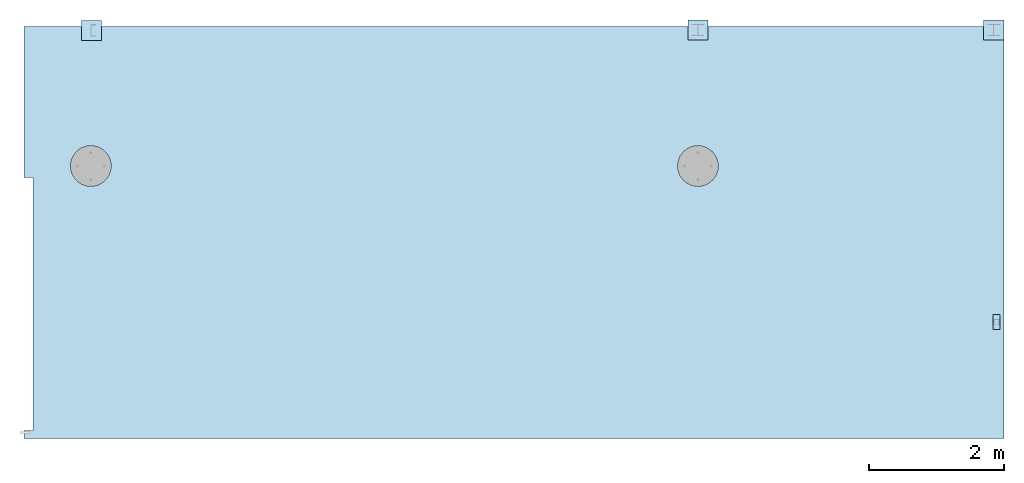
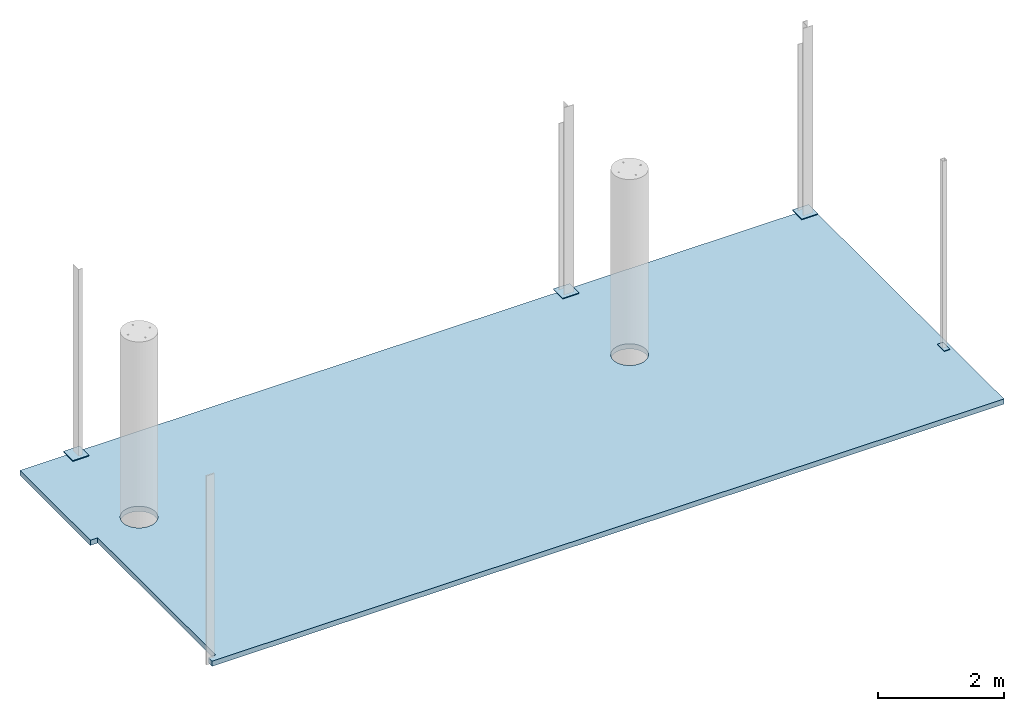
# One storey, part 5 of 6: 4 plates, 1 slab.
"""IFC2X3 building model written with IfcOpenShell, lengths in millimetres."""

from ifc_helpers import new_model, entity, si_unit, converted_unit, derived_unit, direction, frame, origin_with_axes, place, context, subcontext, project, spatial, faceted_brep, material, type_object, element, save


model = new_model("IFC2X3")

# Units and contexts
model_context = context("Model", 3, precision=0.01, world=frame((0.0, 4.29681676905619e-09, 0.0)), true_north=direction((6.12323399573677e-17, 1.0)))
plan_context = context("Plan", 3, precision=0.01, world=frame((0.0, 4.29681676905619e-09, 0.0)), true_north=direction((6.12323399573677e-17, 1.0)))
body_context = subcontext(model_context, "Body", "Model", "MODEL_VIEW")
ifc_project = project(units=[converted_unit("PLANEANGLEUNIT", "DEGREE", entity("IfcPositiveLengthMeasure", 0.0174532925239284), si_unit("PLANEANGLEUNIT", "RADIAN"), dimensions=[0, 0, 0, 0, 0, 0, 0]), si_unit("AREAUNIT", "SQUARE_METRE"), si_unit("LENGTHUNIT", "METRE", prefix="MILLI"), si_unit("MASSUNIT", "GRAM", prefix="KILO"), si_unit("POWERUNIT", "WATT"), si_unit("PRESSUREUNIT", "PASCAL", prefix="KILO"), si_unit("FORCEUNIT", "NEWTON", prefix="KILO"), si_unit("ELECTRICVOLTAGEUNIT", "VOLT"), si_unit("ELECTRICCURRENTUNIT", "AMPERE"), si_unit("THERMODYNAMICTEMPERATUREUNIT", "DEGREE_CELSIUS"), si_unit("TIMEUNIT", "SECOND"), si_unit("VOLUMEUNIT", "CUBIC_METRE"), derived_unit("LINEARVELOCITYUNIT", [(si_unit("LENGTHUNIT", "METRE"), 1), (si_unit("TIMEUNIT", "SECOND"), -1)]), derived_unit("VOLUMETRICFLOWRATEUNIT", [(si_unit("VOLUMEUNIT", "CUBIC_METRE"), 1), (si_unit("TIMEUNIT", "SECOND"), -1)]), derived_unit("THERMALTRANSMITTANCEUNIT", [(si_unit("POWERUNIT", "WATT"), 1), (si_unit("THERMODYNAMICTEMPERATUREUNIT", "KELVIN"), -1), (si_unit("AREAUNIT", "SQUARE_METRE"), -1)]), derived_unit("SOUNDPRESSUREUNIT", [(si_unit("PRESSUREUNIT", "PASCAL"), 1)])], contexts=[model_context, plan_context])

# Site, building, storey
site_placement = place(None, frame((0.0, -4.29681676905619e-09, 0.0), z_axis=(0.0, 0.0, 1.0), x_axis=(1.0, 0.0, 0.0)))
site = spatial("IfcSite", under=ifc_project, at=site_placement, Name="Gardermoen", CompositionType="ELEMENT")
building_placement = place(site_placement, frame((0.0, 4.29681676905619e-09, 0.0), z_axis=(0.0, 0.0, 1.0), x_axis=(1.0, 0.0, 0.0)))
building = spatial("IfcBuilding", under=site, at=building_placement, Name="THO", CompositionType="ELEMENT")
storey_placement = place(building_placement, origin_with_axes())
storey = spatial("IfcBuildingStorey", under=building, at=storey_placement, Name="Nivå F", CompositionType="ELEMENT", Elevation=0.0)

# Plates
ifc_material = material(Name="STEEL/S355")
plate_type_1 = type_object("IfcPlateType", Name="PL10*100", PredefinedType="NOTDEFINED")
plate_placement = place(storey_placement, frame((1130374.79907006, 464194.991475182, 210135.000109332), z_axis=(1.0, 0.0, 0.0), x_axis=(0.0, -1.0, 0.0)))
element("IfcPlate", 1, at=plate_placement, inside=storey, type_object=plate_type_1, material=ifc_material, Name="STÅLSØYLE", ObjectType="PL10*100", context=body_context, shape_type="Brep", body=[
    faceted_brep([(0.0, -4.9999999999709, 0.0), (-1.16415321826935e-10, -5.0, 99.9992370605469), (-1.16415321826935e-10, 5.0, 99.9992370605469), (0.0, 5.0000000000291, -5.82076609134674e-11), (219.995422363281, -5.0, 99.9992370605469), (219.995422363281, 5.0, 99.9992370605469), (219.995422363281, -5.0, 0.0), (219.995422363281, 5.0, 0.0)], [[[0, 1, 2, 3]], [[1, 4, 5, 2]], [[4, 6, 7, 5]], [[6, 0, 3, 7]], [[5, 7, 3, 2]], [[6, 4, 1, 0]]]),
])
plate_type_2 = type_object("IfcPlateType", Name="PL15*300", PredefinedType="NOTDEFINED")
for number, where, z_axis, x_axis in (
    (2, (1116859.00205244, 468560.000026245, 210137.500109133), (0.0, -1.0, 0.0), (1.0, 0.0, 0.0)),
    (3, (1130234.75623213, 468264.500179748, 210137.500109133), (0.0, 1.0, 0.0), (1.0, 0.0, 0.0)),
    (4, (1125850.00586592, 468264.500179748, 210137.500109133), (0.0, 1.0, 0.0), (1.0, 0.0, 0.0)),
):
    element("IfcPlate", number, at=place(storey_placement, frame(where, z_axis=z_axis, x_axis=x_axis)), inside=storey, type_object=plate_type_2, material=ifc_material, Name="STÅLSØYLE", ObjectType="PL15*300", context=body_context, shape_type="Brep", body=[
        faceted_brep([(5.82076609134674e-11, -7.49999999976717, 2.91038304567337e-11), (-1.16415321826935e-10, -7.5, 299.999237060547), (-1.16415321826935e-10, 7.5, 299.999237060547), (5.82076609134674e-11, 7.50000000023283, 0.0), (299.995422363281, -7.5, 299.999237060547), (299.995422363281, 7.5, 299.999237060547), (299.995422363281, -7.5, 5.82076609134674e-11), (299.995422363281, 7.5, 5.82076609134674e-11)], [[[0, 1, 2, 3]], [[1, 4, 5, 2]], [[4, 6, 7, 5]], [[6, 0, 3, 7]], [[5, 7, 3, 2]], [[6, 4, 1, 0]]]),
    ])

# Slab
slab_type = type_object("IfcSlabType", Name="100*27000", PredefinedType="NOTDEFINED")
slab_placement = place(storey_placement, frame((1135000.0, 488163.999511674, 210080.0), z_axis=(0.0, -1.0, 0.0), x_axis=(-1.0, 0.0, 0.0)))
element("IfcSlab", 5, at=slab_placement, inside=storey, type_object=slab_type, Name="PÅSTØP", ObjectType="100*27000", PredefinedType="FLOOR", context=body_context, shape_type="Brep", body=[
    faceted_brep([(18989.9999999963, 50.0000000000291, 21933.9990225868), (18989.9999999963, -50.0, 21933.9990225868), (18855.000164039, -50.0, 21933.9990315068), (18855.000164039, 50.0000000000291, 21933.9990315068), (18989.9999999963, -50.0, 25683.4990635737), (18989.9999999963, 50.0000000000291, 25683.4990635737), (18855.0007235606, 50.0000000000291, 25683.4990670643), (18855.0007235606, -50.0, 25683.4990670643), (8700.00043527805, -50.0, 21763.9993376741), (8700.00043527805, 50.0000000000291, 21763.9993376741), (8703.69393216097, 50.0000000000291, 21717.0689980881), (8703.69393216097, -50.0, 21717.0689980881), (8703.69393403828, -50.0, 21810.9296771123), (8703.69393403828, 50.0000000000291, 21810.9296771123), (8714.68348224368, -50.0, 21856.7044356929), (8714.68348224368, 50.0000000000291, 21856.7044356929), (8732.69848074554, -50.0, 21900.1964869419), (8732.69848074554, 50.0000000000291, 21900.1964869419), (8757.29534049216, -50.0, 21940.3349122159), (8757.29534049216, 50.0000000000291, 21940.3349122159), (8787.86840516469, -50.0, 21976.1313702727), (8787.86840516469, 50.0000000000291, 21976.1313702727), (8823.66486444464, -50.0, 22006.7044335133), (8823.66486444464, 50.0000000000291, 22006.7044335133), (8863.80329070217, -50.0, 22031.3012916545), (8863.80329070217, 50.0000000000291, 22031.3012916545), (8907.29534267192, -50.0, 22049.3162884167), (8907.29534267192, 50.0000000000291, 22049.3162884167), (8953.07010169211, -50.0, 22060.3058347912), (8953.07010169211, 50.0000000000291, 22060.3058347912), (9000.0004412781, -50.0, 22063.9993316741), (9000.0004412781, 50.0000000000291, 22063.9993316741), (9046.93078071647, -50.0, 22060.305832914), (9046.93078071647, 50.0000000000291, 22060.305832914), (9092.70553929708, -50.0, 22049.3162847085), (9092.70553929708, 50.0000000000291, 22049.3162847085), (9136.19759054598, -50.0, 22031.3012862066), (9136.19759054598, 50.0000000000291, 22031.3012862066), (9176.33601582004, -50.0, 22006.7044264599), (9176.33601582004, 50.0000000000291, 22006.7044264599), (9212.1324738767, -50.0, 21976.1313617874), (9212.1324738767, 50.0000000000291, 21976.1313617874), (9242.70553711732, -50.0, 21940.3349025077), (9242.70553711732, 50.0000000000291, 21940.3349025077), (9267.3023952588, -50.0, 21900.1964762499), (9267.3023952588, 50.0000000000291, 21900.1964762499), (9285.31739202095, -50.0, 21856.7044242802), (9285.31739202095, 50.0000000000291, 21856.7044242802), (9296.30693839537, -50.0, 21810.92966526), (9296.30693839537, 50.0000000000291, 21810.92966526), (9300.00043527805, -50.0, 21763.9993256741), (9300.00043527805, 50.0000000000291, 21763.9993256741), (9296.30693651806, -50.0, 21717.0689862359), (9296.30693651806, 50.0000000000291, 21717.0689862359), (9285.31738831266, -50.0, 21671.2942276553), (9285.31738831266, 50.0000000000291, 21671.2942276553), (9267.30238981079, -50.0, 21627.8021764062), (9267.30238981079, 50.0000000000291, 21627.8021764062), (9242.70553006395, -50.0, 21587.6637511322), (9242.70553006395, 50.0000000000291, 21587.6637511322), (9212.13246539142, -50.0, 21551.8672930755), (9212.13246539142, 50.0000000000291, 21551.8672930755), (9176.3360061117, -50.0, 21521.2942298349), (9176.3360061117, 50.0000000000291, 21521.2942298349), (9136.19757985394, -50.0, 21496.6973716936), (9136.19757985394, 50.0000000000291, 21496.6973716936), (9092.70552788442, -50.0, 21478.6823749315), (9092.70552788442, 50.0000000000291, 21478.6823749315), (9046.93076886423, -50.0, 21467.6928285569), (9046.93076886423, 50.0000000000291, 21467.6928285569), (9000.00042927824, -50.0, 21463.9993316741), (9000.00042927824, 50.0000000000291, 21463.9993316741), (8953.07008983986, -50.0, 21467.6928304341), (8953.07008983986, 50.0000000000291, 21467.6928304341), (8907.29533125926, -50.0, 21478.6823786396), (8907.29533125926, 50.0000000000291, 21478.6823786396), (8863.80328001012, -50.0, 21496.6973771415), (8863.80328001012, 50.0000000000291, 21496.6973771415), (8823.6648547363, -50.0, 21521.2942368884), (8823.6648547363, 50.0000000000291, 21521.2942368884), (8787.86839667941, -50.0, 21551.8673015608), (8787.86839667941, 50.0000000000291, 21551.8673015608), (8757.29533343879, -50.0, 21587.6637608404), (8757.29533343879, 50.0000000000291, 21587.6637608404), (8732.69847529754, -50.0, 21627.8021870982), (8732.69847529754, 50.0000000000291, 21627.8021870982), (8714.68347853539, -50.0, 21671.2942390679), (8714.68347853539, 50.0000000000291, 21671.2942390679), (17700.0004352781, -49.9999999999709, 21763.9991576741), (17700.0004352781, 50.0000000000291, 21763.9991576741), (17703.693932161, 50.0000000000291, 21717.0688180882), (17703.693932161, -49.9999999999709, 21717.0688180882), (17703.6939340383, -49.9999999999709, 21810.9294971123), (17703.6939340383, 50.0000000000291, 21810.9294971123), (17714.6834822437, -49.9999999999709, 21856.7042556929), (17714.6834822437, 50.0000000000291, 21856.7042556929), (17732.6984807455, -49.9999999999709, 21900.196306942), (17732.6984807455, 50.0000000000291, 21900.196306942), (17757.2953404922, -49.9999999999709, 21940.334732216), (17757.2953404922, 50.0000000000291, 21940.334732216), (17787.8684051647, -49.9999999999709, 21976.1311902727), (17787.8684051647, 50.0000000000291, 21976.1311902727), (17823.6648644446, -49.9999999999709, 22006.7042535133), (17823.6648644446, 50.0000000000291, 22006.7042535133), (17863.8032907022, -49.9999999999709, 22031.3011116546), (17863.8032907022, 50.0000000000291, 22031.3011116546), (17907.2953426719, -49.9999999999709, 22049.3161084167), (17907.2953426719, 50.0000000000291, 22049.3161084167), (17953.0701016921, -49.9999999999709, 22060.3056547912), (17953.0701016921, 50.0000000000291, 22060.3056547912), (18000.0004412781, -49.9999999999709, 22063.9991516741), (18000.0004412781, 50.0000000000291, 22063.9991516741), (18046.9307807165, -49.9999999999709, 22060.305652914), (18046.9307807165, 50.0000000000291, 22060.305652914), (18092.7055392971, -49.9999999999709, 22049.3161047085), (18092.7055392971, 50.0000000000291, 22049.3161047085), (18136.197590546, -49.9999999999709, 22031.3011062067), (18136.197590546, 50.0000000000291, 22031.3011062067), (18176.33601582, -49.9999999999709, 22006.7042464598), (18176.33601582, 50.0000000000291, 22006.7042464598), (18212.1324738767, -49.9999999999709, 21976.1311817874), (18212.1324738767, 50.0000000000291, 21976.1311817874), (18242.7055371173, -49.9999999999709, 21940.3347225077), (18242.7055371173, 50.0000000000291, 21940.3347225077), (18267.3023952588, -49.9999999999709, 21900.1962962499), (18267.3023952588, 50.0000000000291, 21900.1962962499), (18285.317392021, -49.9999999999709, 21856.7042442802), (18285.317392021, 50.0000000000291, 21856.7042442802), (18296.3069383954, -49.9999999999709, 21810.92948526), (18296.3069383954, 50.0000000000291, 21810.92948526), (18300.0004352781, -49.9999999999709, 21763.9991456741), (18300.0004352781, 50.0000000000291, 21763.9991456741), (18296.3069365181, -49.9999999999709, 21717.0688062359), (18296.3069365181, 50.0000000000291, 21717.0688062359), (18285.3173883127, -49.9999999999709, 21671.2940476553), (18285.3173883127, 50.0000000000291, 21671.2940476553), (18267.3023898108, -49.9999999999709, 21627.8019964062), (18267.3023898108, 50.0000000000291, 21627.8019964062), (18242.7055300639, -49.9999999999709, 21587.6635711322), (18242.7055300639, 50.0000000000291, 21587.6635711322), (18212.1324653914, -49.9999999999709, 21551.8671130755), (18212.1324653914, 50.0000000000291, 21551.8671130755), (18176.3360061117, -49.9999999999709, 21521.2940498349), (18176.3360061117, 50.0000000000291, 21521.2940498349), (18136.1975798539, -49.9999999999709, 21496.6971916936), (18136.1975798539, 50.0000000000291, 21496.6971916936), (18092.7055278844, -49.9999999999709, 21478.6821949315), (18092.7055278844, 50.0000000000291, 21478.6821949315), (18046.9307688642, -49.9999999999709, 21467.692648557), (18046.9307688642, 50.0000000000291, 21467.692648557), (18000.0004292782, -49.9999999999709, 21463.9991516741), (18000.0004292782, 50.0000000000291, 21463.9991516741), (17953.0700898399, -49.9999999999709, 21467.6926504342), (17953.0700898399, 50.0000000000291, 21467.6926504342), (17907.2953312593, -49.9999999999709, 21478.6821986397), (17907.2953312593, 50.0000000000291, 21478.6821986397), (17863.8032800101, -49.9999999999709, 21496.6971971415), (17863.8032800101, 50.0000000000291, 21496.6971971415), (17823.6648547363, -49.9999999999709, 21521.2940568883), (17823.6648547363, 50.0000000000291, 21521.2940568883), (17787.8683966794, -49.9999999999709, 21551.8671215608), (17787.8683966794, 50.0000000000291, 21551.8671215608), (17757.2953334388, -49.9999999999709, 21587.6635808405), (17757.2953334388, 50.0000000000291, 21587.6635808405), (17732.6984752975, -49.9999999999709, 21627.8020070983), (17732.6984752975, 50.0000000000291, 21627.8020070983), (17714.6834785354, -49.9999999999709, 21671.294059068), (17714.6834785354, 50.0000000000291, 21671.294059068), (18989.9999999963, -49.9999999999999, 19697.4995116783), (4462.20015814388, -49.9999999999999, 19697.4995116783), (4462.20015814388, -50.0, 25801.4995116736), (18989.9999999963, -49.9999999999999, 25801.4995116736), (18989.9999999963, 50.0000000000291, 25801.4995116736), (4462.20015814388, 50.0000000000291, 25801.4995116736), (4462.20015814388, 50.0000000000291, 19697.4995116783), (18989.9999999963, 50.0000000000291, 19697.4995116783)], [[[0, 1, 2, 3]], [[4, 5, 6, 7]], [[7, 6, 3, 2]], [[8, 9, 10, 11]], [[12, 13, 9, 8]], [[14, 15, 13, 12]], [[16, 17, 15, 14]], [[18, 19, 17, 16]], [[20, 21, 19, 18]], [[22, 23, 21, 20]], [[24, 25, 23, 22]], [[26, 27, 25, 24]], [[28, 29, 27, 26]], [[30, 31, 29, 28]], [[32, 33, 31, 30]], [[34, 35, 33, 32]], [[36, 37, 35, 34]], [[38, 39, 37, 36]], [[40, 41, 39, 38]], [[42, 43, 41, 40]], [[44, 45, 43, 42]], [[46, 47, 45, 44]], [[48, 49, 47, 46]], [[50, 51, 49, 48]], [[52, 53, 51, 50]], [[54, 55, 53, 52]], [[56, 57, 55, 54]], [[58, 59, 57, 56]], [[60, 61, 59, 58]], [[62, 63, 61, 60]], [[64, 65, 63, 62]], [[66, 67, 65, 64]], [[68, 69, 67, 66]], [[70, 71, 69, 68]], [[72, 73, 71, 70]], [[74, 75, 73, 72]], [[76, 77, 75, 74]], [[78, 79, 77, 76]], [[80, 81, 79, 78]], [[82, 83, 81, 80]], [[84, 85, 83, 82]], [[86, 87, 85, 84]], [[11, 10, 87, 86]], [[88, 89, 90, 91]], [[92, 93, 89, 88]], [[94, 95, 93, 92]], [[96, 97, 95, 94]], [[98, 99, 97, 96]], [[100, 101, 99, 98]], [[102, 103, 101, 100]], [[104, 105, 103, 102]], [[106, 107, 105, 104]], [[108, 109, 107, 106]], [[110, 111, 109, 108]], [[112, 113, 111, 110]], [[114, 115, 113, 112]], [[116, 117, 115, 114]], [[118, 119, 117, 116]], [[120, 121, 119, 118]], [[122, 123, 121, 120]], [[124, 125, 123, 122]], [[126, 127, 125, 124]], [[128, 129, 127, 126]], [[130, 131, 129, 128]], [[132, 133, 131, 130]], [[134, 135, 133, 132]], [[136, 137, 135, 134]], [[138, 139, 137, 136]], [[140, 141, 139, 138]], [[142, 143, 141, 140]], [[144, 145, 143, 142]], [[146, 147, 145, 144]], [[148, 149, 147, 146]], [[150, 151, 149, 148]], [[152, 153, 151, 150]], [[154, 155, 153, 152]], [[156, 157, 155, 154]], [[158, 159, 157, 156]], [[160, 161, 159, 158]], [[162, 163, 161, 160]], [[164, 165, 163, 162]], [[166, 167, 165, 164]], [[91, 90, 167, 166]], [[1, 168, 169, 170, 171, 4, 7, 2], [92, 88, 91, 166, 164, 162, 160, 158, 156, 154, 152, 150, 148, 146, 144, 142, 140, 138, 136, 134, 132, 130, 128, 126, 124, 122, 120, 118, 116, 114, 112, 110, 108, 106, 104, 102, 100, 98, 96, 94], [12, 8, 11, 86, 84, 82, 80, 78, 76, 74, 72, 70, 68, 66, 64, 62, 60, 58, 56, 54, 52, 50, 48, 46, 44, 42, 40, 38, 36, 34, 32, 30, 28, 26, 24, 22, 20, 18, 16, 14]], [[5, 172, 173, 174, 175, 0, 3, 6], [10, 9, 13, 15, 17, 19, 21, 23, 25, 27, 29, 31, 33, 35, 37, 39, 41, 43, 45, 47, 49, 51, 53, 55, 57, 59, 61, 63, 65, 67, 69, 71, 73, 75, 77, 79, 81, 83, 85, 87], [90, 89, 93, 95, 97, 99, 101, 103, 105, 107, 109, 111, 113, 115, 117, 119, 121, 123, 125, 127, 129, 131, 133, 135, 137, 139, 141, 143, 145, 147, 149, 151, 153, 155, 157, 159, 161, 163, 165, 167]], [[170, 169, 174, 173]], [[169, 168, 175, 174]], [[168, 1, 0, 175]], [[172, 5, 4, 171]], [[171, 170, 173, 172]]], orient=[[False], [False], [False], [False], [False], [False], [False], [False], [False], [False], [False], [False], [False], [False], [False], [False], [False], [False], [False], [False], [False], [False], [False], [False], [False], [False], [False], [False], [False], [False], [False], [False], [False], [False], [False], [False], [False], [False], [False], [False], [False], [False], [False], [False], [False], [False], [False], [False], [False], [False], [False], [False], [False], [False], [False], [False], [False], [False], [False], [False], [False], [False], [False], [False], [False], [False], [False], [False], [False], [False], [False], [False], [False], [False], [False], [False], [False], [False], [False], [False], [False], [False], [False], [False, False, False], [False, False, False], [False], [False], [False], [False], [False]]),
])

save(model, "model.ifc")
